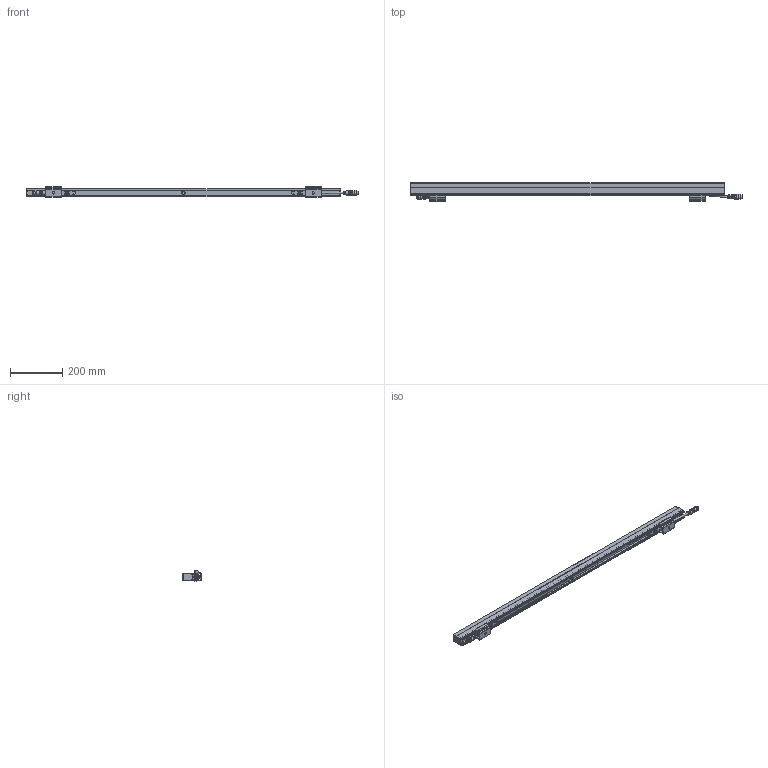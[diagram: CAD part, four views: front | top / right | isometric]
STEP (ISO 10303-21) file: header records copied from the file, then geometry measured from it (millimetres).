
FILE_DESCRIPTION (( 'STEP AP214' ), '1' );
FILE_NAME ('E series 2 Square L1200.STEP', '2025-11-24T13:37:00', ( '' ), ( '' ), 'SwSTEP 2.0', 'SolidWorks 2025', '' );
FILE_SCHEMA (( 'AUTOMOTIVE_DESIGN' ));
Length unit declared in the file: millimetre
Products named in the file (12): Part2^E series 2; D & E Series 2 breathing valve; Part1^E series 2; E series 2 with square cover body_1200mm; E series 2 with dome cover body and bare config_Bare 1200mm; Counter sunk screw torx_M2.5x16; E series 2 mounting clip bottom; E series 2 Square L1200; M16 5p Female; Counter sunk screw torx_M3x16; M16 5p Male; E series 2 mounting clip top
Assembly tree (27 placements, depth 2):
  E series 2 Square L1200
    E series 2 with dome cover body and bare config_Bare 1200mm
    Counter sunk screw torx_M2.5x16  x12
    E series 2 mounting clip bottom  x2
    E series 2 mounting clip top  x2
    Counter sunk screw torx_M3x16  x4
    E series 2 with square cover body_1200mm
    M16 5p Female
    Part2^E series 2
    M16 5p Male
    Part1^E series 2
    D & E Series 2 breathing valve
Bounding box: 1265.35 x 68.7 x 41.7 mm (x, y, z)
Volume: 1434560.5 mm3; surface area: 303113.2 mm2
Topology: 29 solids, 32 shells, 1782 faces, 4436 edges, 2799 vertices
Faces by surface type: cylinder 741, plane 632, torus 135, bspline 130, cone 118, sphere 26
Full cylindrical faces by diameter (mm): 2.4 x2, 2.5 x12, 3 x4, 4.5 x12, 5.81 x4, 9.2 x1, 11.1 x1, 14.25 x1, 14.3 x1, 18 x1
Entity records: 61974 total; most frequent: CARTESIAN_POINT 20323, ORIENTED_EDGE 7026, DIRECTION 6615, EDGE_CURVE 3513, AXIS2_PLACEMENT_3D 2557, VERTEX_POINT 2225, EDGE_LOOP 1588, LINE 1501
